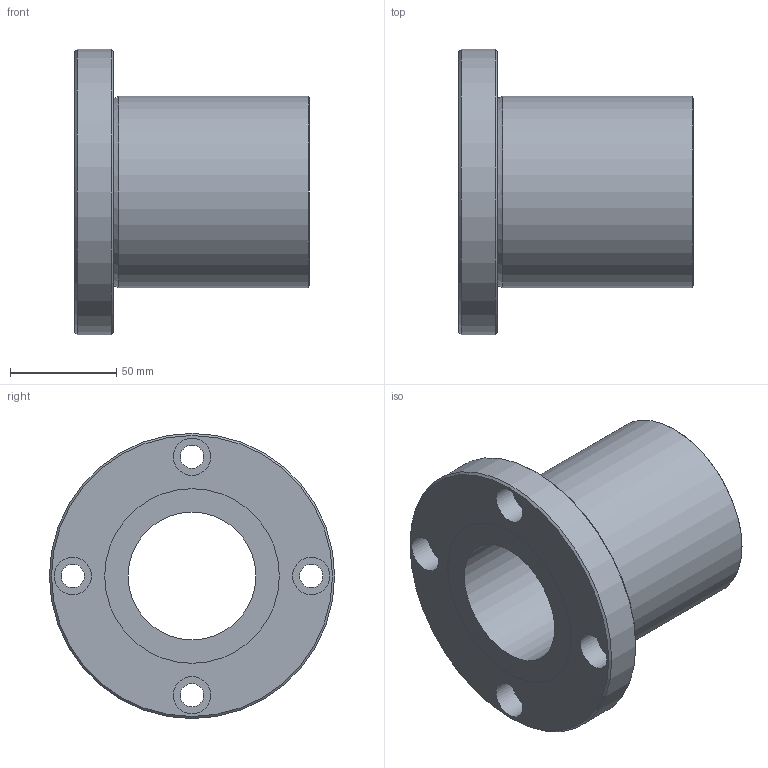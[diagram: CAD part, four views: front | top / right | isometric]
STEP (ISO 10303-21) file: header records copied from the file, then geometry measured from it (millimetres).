
FILE_DESCRIPTION((''),'2;1');
FILE_NAME('D:\製品 (図面)\カタログ用3D\リニアベアリング関連\STEP形式\LF\LF60.stp','2010-06-03T09:15:25',('Tsuchiya'),(''),'Autodesk Inventor 10','Autodesk Inventor 10','');
FILE_SCHEMA(('AUTOMOTIVE_DESIGN { 1 0 10303 214 1 1 1 1 }'));
Length unit declared in the file: millimetre
Products named in the file (1): LF60
Bounding box: 110 x 134 x 134 mm (x, y, z)
Volume: 513552.9 mm3; surface area: 79252.8 mm2
Topology: 1 solids, 1 shells, 26 faces, 47 edges, 30 vertices
Faces by surface type: cylinder 13, plane 9, cone 2, torus 1, bspline 1
Full cylindrical faces by diameter (mm): 11 x4, 17.5 x4, 60 x1, 82 x2, 90 x1, 134 x1
Entity records: 647 total; most frequent: CARTESIAN_POINT 131, DIRECTION 112, ORIENTED_EDGE 60, EDGE_LOOP 60, AXIS2_PLACEMENT_3D 56, FACE_BOUND 34, VERTEX_POINT 30, CIRCLE 30
